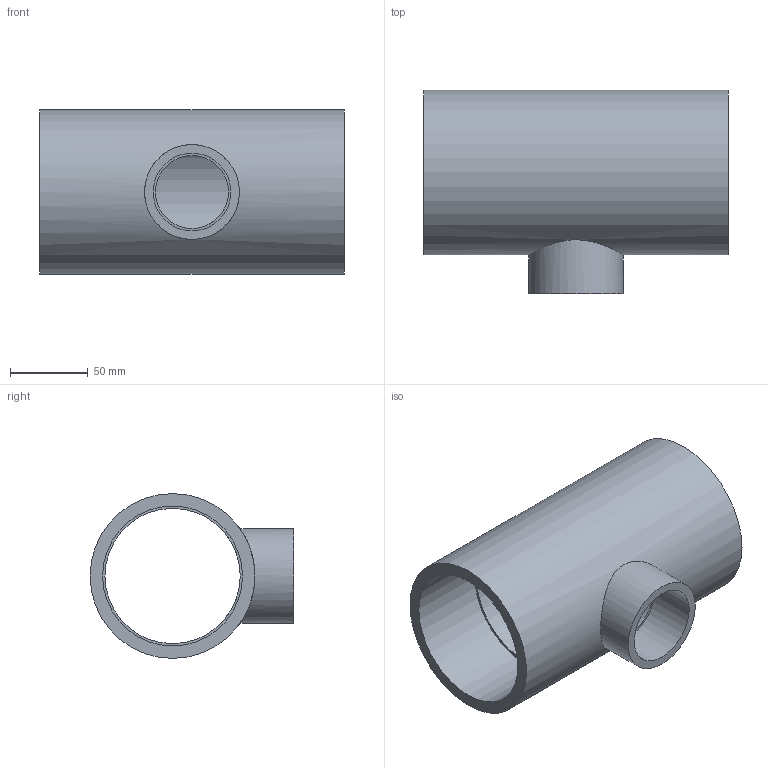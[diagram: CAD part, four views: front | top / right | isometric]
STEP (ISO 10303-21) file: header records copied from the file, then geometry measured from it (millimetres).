
FILE_DESCRIPTION(/* description */ ('PVC ti a 90° ridotto incollaggio metrico'),/* implementation_level */ '2;1');
FILE_NAME(/* name */ 'C:\Users\POLYPIPE\Desktop\DATASET INVENTOR\LIBRERIA EFFAST\RACCORDI 3DxWEB\RDR\3D_RDRTRD\3D_RDRTRD090F.stp',/* time_stamp */ '2018-01-19T15:48:49+01:00',/* author */ ('POLYPIPE'),/* organization */ ('Polypipe Italia s.r.l.'),/* preprocessor_version */ 'ST-DEVELOPER v16.1',/* originating_system */ 'Autodesk Inventor 2016',/* authorisation */ '');
FILE_SCHEMA (('CONFIG_CONTROL_DESIGN'));
Length unit declared in the file: millimetre
Products named in the file (1): 3D_RDRTRD
Bounding box: 196 x 131 x 106 mm (x, y, z)
Volume: 531999.7 mm3; surface area: 133477.3 mm2
Topology: 1 solids, 1 shells, 13 faces, 23 edges, 16 vertices
Faces by surface type: cylinder 7, plane 6
Full cylindrical faces by diameter (mm): 47 x1, 50 x1, 61 x1, 87 x1, 90 x2, 106 x1
Entity records: 430 total; most frequent: CARTESIAN_POINT 172, DIRECTION 52, EDGE_LOOP 28, ORIENTED_EDGE 28, AXIS2_PLACEMENT_3D 26, FACE_BOUND 15, VERTEX_POINT 14, EDGE_CURVE 14
